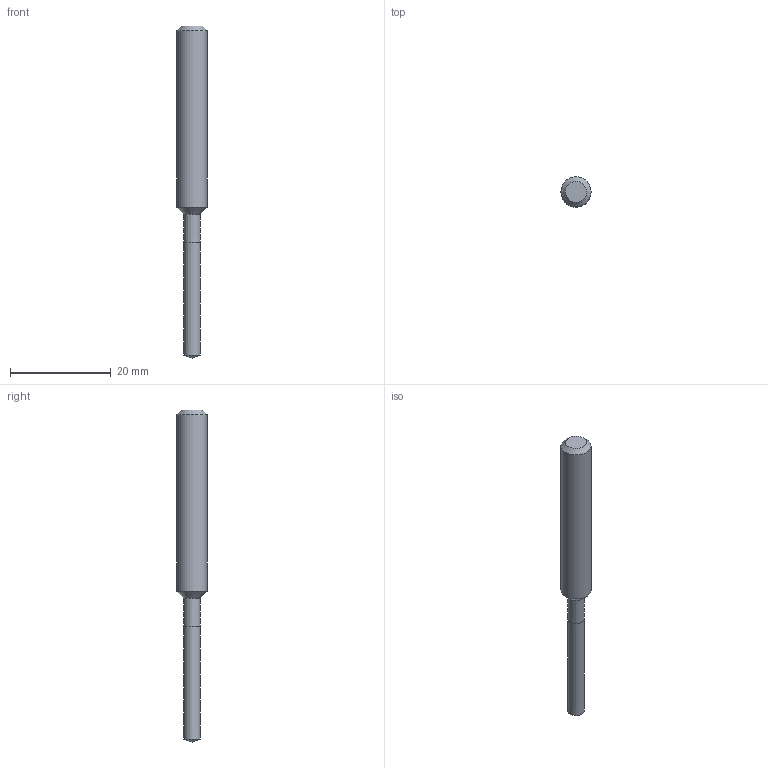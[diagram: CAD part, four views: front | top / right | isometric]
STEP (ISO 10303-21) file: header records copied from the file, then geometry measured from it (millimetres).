
FILE_DESCRIPTION(/* description */ (''),/* implementation_level */ '2;1');
FILE_NAME(/* name */ 'PLM~180329165744~TIX~0160~7462064~MOD~TM01_00~DC150-05-03.250A0-WJ30TA_ISO~FR.STP',/* time_stamp */ '2018-03-29T17:04:02+02:00',/* author */ ('VR - J.Pauli'),/* organization */ ('Walter AG'),/* preprocessor_version */ 'ST-DEVELOPER v15',/* originating_system */ 'SIEMENS PLM Software NX 8.5',/* authorisation */ '');
FILE_SCHEMA (('AUTOMOTIVE_DESIGN { 1 0 10303 214 3 1 1 1 }'));
Length unit declared in the file: millimetre
Products named in the file (1): PLM~180329165744~TIX~0160~7462064~MOD~TM01_00~DC150-05-03.250A0-WJ30T
A_ISO~FR
Bounding box: 6 x 6 x 66 mm (x, y, z)
Volume: 1268.8 mm3; surface area: 1035.7 mm2
Topology: 2 solids, 2 shells, 9 faces, 19 edges, 16 vertices
Faces by surface type: cone 5, plane 3, cylinder 1
Full cylindrical faces by diameter (mm): 6 x1
Entity records: 256 total; most frequent: DIRECTION 43, CARTESIAN_POINT 31, AXIS2_PLACEMENT_3D 20, EDGE_LOOP 14, ORIENTED_EDGE 14, FACE_BOUND 12, ADVANCED_FACE 9, VERTEX_POINT 8
